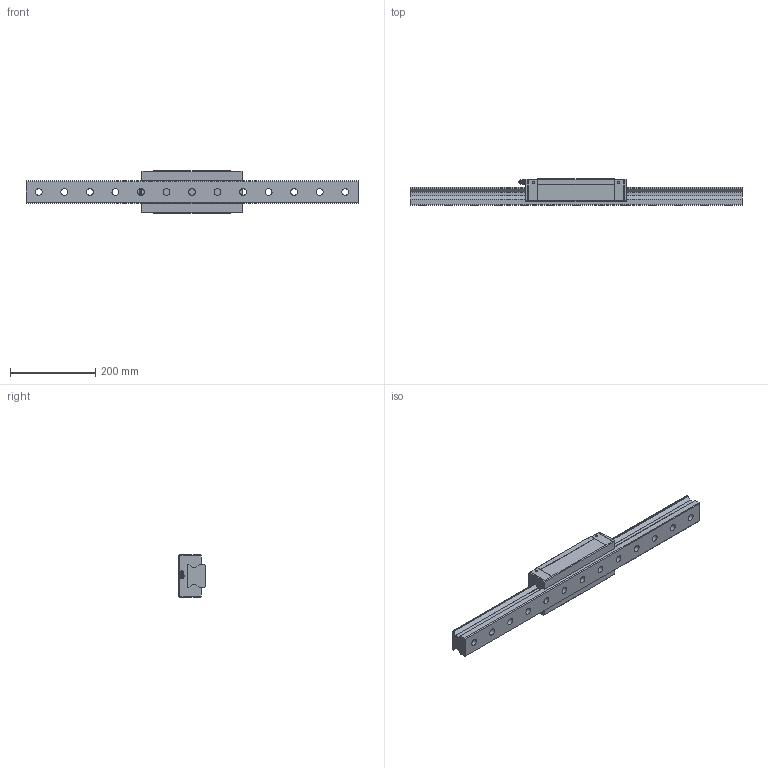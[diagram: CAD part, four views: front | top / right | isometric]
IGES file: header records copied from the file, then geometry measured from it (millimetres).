
Start section: Data from Parasolid IGES Translator 26.0.171, Copyright(c) 2006 Siemens PLM Software. All Rights Reserved.
Global section: file name: SRN55LR1SS-780L_G30_0_B-PT18_272-5_0_0_0_1.igs; native system: By Siemens PLM Incorporated; preprocessor: XPlus GENERIC/IGES 26.0.171; author: Noname; organization: Noname; date: 20240523.105804; units: millimetre
Bounding box: 780 x 63 x 100 mm (x, y, z)
Surface area: 290873.2 mm2 (no closed solid volume)
Topology: 0 solids, 0 shells, 209 faces, 1075 edges, 984 vertices
Faces by surface type: extrusion 128, revolution 81
